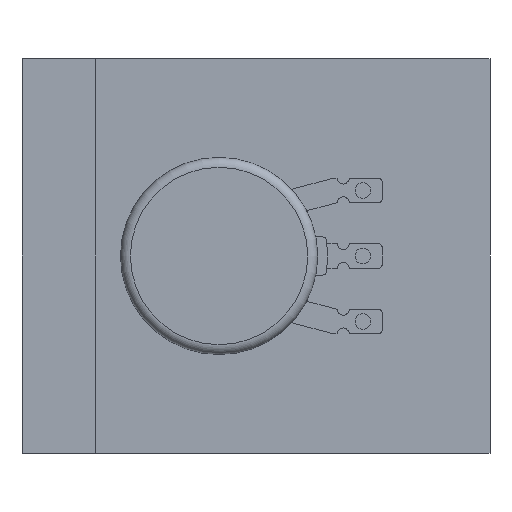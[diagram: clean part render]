
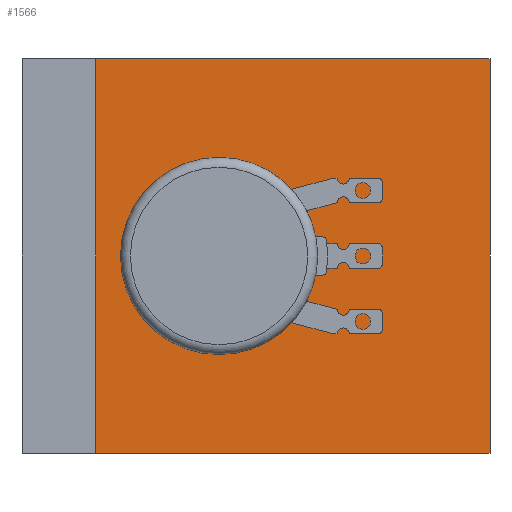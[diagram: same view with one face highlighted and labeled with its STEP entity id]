
A CAD part, left-side view. The second image highlights one B-rep face of the part: STEP entity #1566.
In plain terms, the highlighted planar face has unit normal (-1, 0, 0).
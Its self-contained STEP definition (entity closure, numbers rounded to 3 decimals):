
#62=PLANE('',#1709);
#164=LINE('',#2590,#280);
#165=LINE('',#2593,#281);
#166=LINE('',#2595,#282);
#167=LINE('',#2597,#283);
#280=VECTOR('',#2010,1000.);
#281=VECTOR('',#2011,1000.);
#282=VECTOR('',#2012,1000.);
#283=VECTOR('',#2013,1000.);
#553=ORIENTED_EDGE('',*,*,#905,.T.);
#554=ORIENTED_EDGE('',*,*,#906,.T.);
#555=ORIENTED_EDGE('',*,*,#908,.F.);
#556=ORIENTED_EDGE('',*,*,#909,.F.);
#557=ORIENTED_EDGE('',*,*,#910,.F.);
#558=ORIENTED_EDGE('',*,*,#911,.F.);
#905=EDGE_CURVE('',#1093,#1093,#1205,.T.);
#906=EDGE_CURVE('',#1094,#1094,#1206,.T.);
#908=EDGE_CURVE('',#1096,#1097,#164,.T.);
#909=EDGE_CURVE('',#1098,#1096,#165,.T.);
#910=EDGE_CURVE('',#1099,#1098,#166,.T.);
#911=EDGE_CURVE('',#1097,#1099,#167,.T.);
#1093=VERTEX_POINT('',#2583);
#1094=VERTEX_POINT('',#2586);
#1096=VERTEX_POINT('',#2591);
#1097=VERTEX_POINT('',#2592);
#1098=VERTEX_POINT('',#2594);
#1099=VERTEX_POINT('',#2596);
#1205=CIRCLE('',#1705,4.75);
#1206=CIRCLE('',#1707,1.5);
#1304=EDGE_LOOP('',(#553));
#1305=EDGE_LOOP('',(#554));
#1306=EDGE_LOOP('',(#555,#556,#557,#558));
#1431=FACE_BOUND('',#1304,.T.);
#1432=FACE_BOUND('',#1305,.T.);
#1433=FACE_BOUND('',#1306,.T.);
#1566=ADVANCED_FACE('',(#1431,#1432,#1433),#62,.F.);
#1705=AXIS2_PLACEMENT_3D('',#2582,#2000,#2001);
#1707=AXIS2_PLACEMENT_3D('',#2585,#2004,#2005);
#1709=AXIS2_PLACEMENT_3D('',#2589,#2008,#2009);
#2000=DIRECTION('',(1.,0.,0.));
#2001=DIRECTION('',(0.,0.,-1.));
#2004=DIRECTION('',(1.,0.,0.));
#2005=DIRECTION('',(0.,0.,-1.));
#2008=DIRECTION('',(1.,0.,0.));
#2009=DIRECTION('',(0.,0.,-1.));
#2010=DIRECTION('',(0.,0.,1.));
#2011=DIRECTION('',(0.,1.,0.));
#2012=DIRECTION('',(0.,0.,-1.));
#2013=DIRECTION('',(0.,-1.,0.));
#2582=CARTESIAN_POINT('',(-0.5,0.,0.));
#2583=CARTESIAN_POINT('',(-0.5,0.,-4.75));
#2585=CARTESIAN_POINT('',(-0.5,0.,7.5));
#2586=CARTESIAN_POINT('',(-0.5,0.,6.));
#2589=CARTESIAN_POINT('',(-0.5,0.,0.));
#2590=CARTESIAN_POINT('',(-0.5,12.5,-20.));
#2591=CARTESIAN_POINT('',(-0.5,12.5,-20.));
#2592=CARTESIAN_POINT('',(-0.5,12.5,20.));
#2593=CARTESIAN_POINT('',(-0.5,-27.5,-20.));
#2594=CARTESIAN_POINT('',(-0.5,-27.5,-20.));
#2595=CARTESIAN_POINT('',(-0.5,-27.5,20.));
#2596=CARTESIAN_POINT('',(-0.5,-27.5,20.));
#2597=CARTESIAN_POINT('',(-0.5,12.5,20.));
